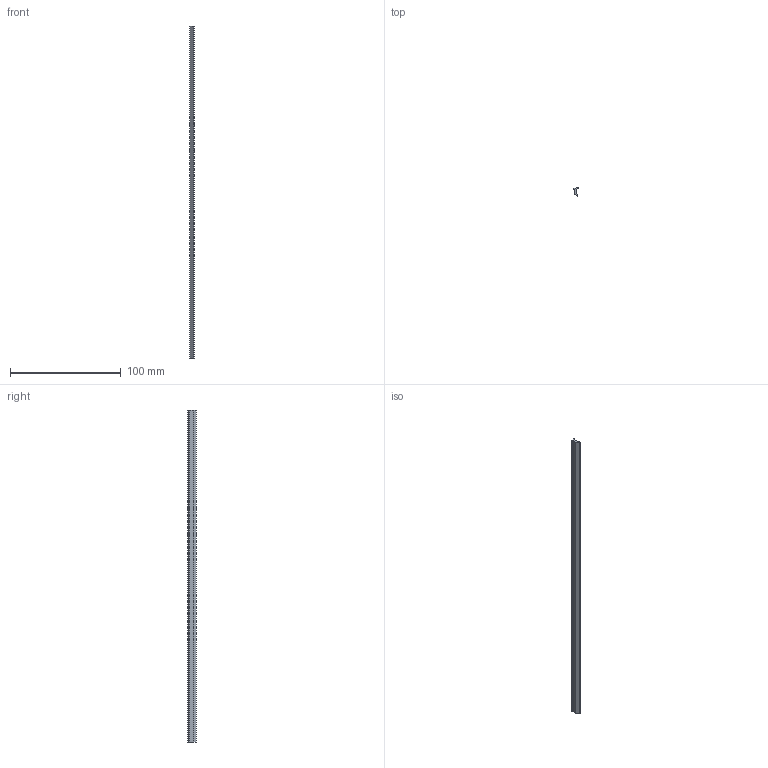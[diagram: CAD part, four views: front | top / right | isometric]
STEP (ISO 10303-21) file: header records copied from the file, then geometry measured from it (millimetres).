
FILE_DESCRIPTION (( 'STEP AP203' ), '1' );
FILE_NAME ('188-CE-6K4.STEP', '2015-07-09T09:19:18', ( '' ), ( '' ), 'SwSTEP 2.0', 'SolidWorks 2013', '' );
FILE_SCHEMA (( 'CONFIG_CONTROL_DESIGN' ));
Length unit declared in the file: millimetre
Products named in the file (1): 188-CE-6K4
Bounding box: 4.05 x 8.04 x 300 mm (x, y, z)
Volume: 4256.5 mm3; surface area: 6701.4 mm2
Topology: 1 solids, 1 shells, 19 faces, 51 edges, 34 vertices
Faces by surface type: plane 11, cylinder 8
Entity records: 678 total; most frequent: DIRECTION 107, CARTESIAN_POINT 105, ORIENTED_EDGE 102, EDGE_CURVE 51, AXIS2_PLACEMENT_3D 36, LINE 35, VECTOR 35, VERTEX_POINT 34
